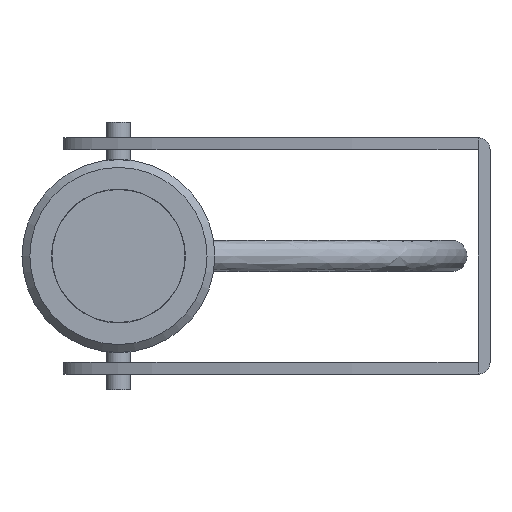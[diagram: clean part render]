
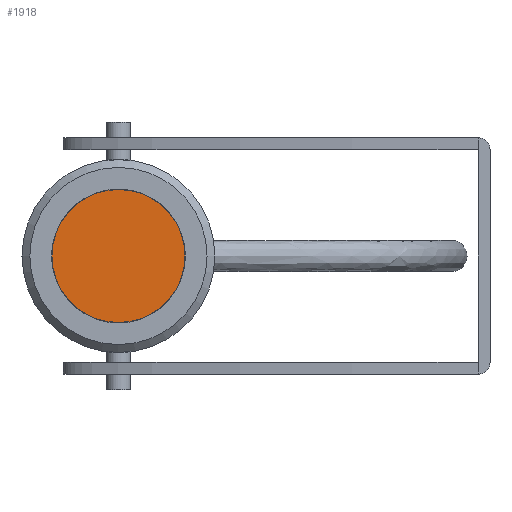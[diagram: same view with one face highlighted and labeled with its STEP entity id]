
A CAD part, left-side view. The second image highlights one B-rep face of the part: STEP entity #1918.
In plain terms, the highlighted planar face has unit normal (-1, 0, 0).
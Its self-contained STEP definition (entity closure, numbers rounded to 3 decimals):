
#415=FACE_OUTER_BOUND('',#559,.T.);
#559=EDGE_LOOP('',(#1300));
#739=CIRCLE('',#2090,8.45);
#852=VERTEX_POINT('',#3010);
#1029=EDGE_CURVE('',#852,#852,#739,.T.);
#1300=ORIENTED_EDGE('',*,*,#1029,.F.);
#1842=PLANE('',#2089);
#1918=ADVANCED_FACE('',(#415),#1842,.T.);
#2089=AXIS2_PLACEMENT_3D('',#3009,#2357,#2358);
#2090=AXIS2_PLACEMENT_3D('',#3011,#2359,#2360);
#2357=DIRECTION('center_axis',(-1.,0.,0.));
#2358=DIRECTION('ref_axis',(0.,0.,1.));
#2359=DIRECTION('center_axis',(1.,0.,0.));
#2360=DIRECTION('ref_axis',(0.,0.,-1.));
#3009=CARTESIAN_POINT('Origin',(61.334,57.01,-0.001));
#3010=CARTESIAN_POINT('',(61.334,40.11,-0.001));
#3011=CARTESIAN_POINT('Origin',(61.334,48.56,-0.001));
